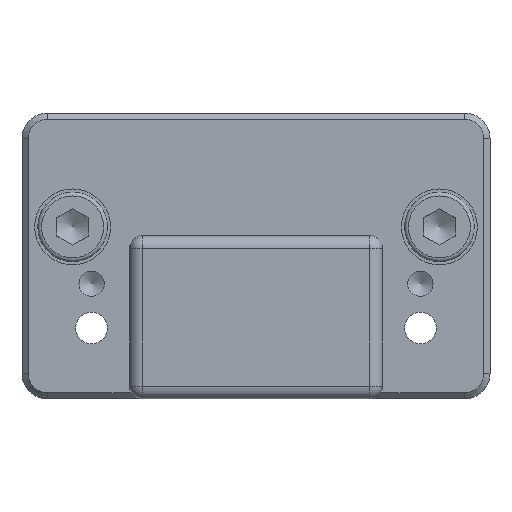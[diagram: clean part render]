
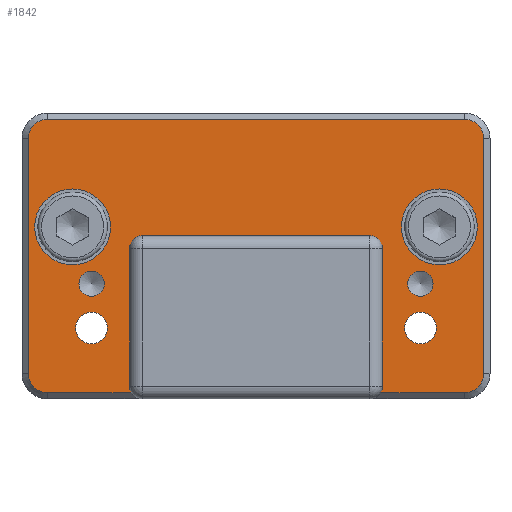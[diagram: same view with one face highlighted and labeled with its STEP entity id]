
A CAD part, front view. The second image highlights one B-rep face of the part: STEP entity #1842.
In plain terms, the highlighted planar face has unit normal (0, -1, 0).
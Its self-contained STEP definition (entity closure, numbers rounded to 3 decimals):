
#44=FACE_BOUND('',#332,.T.);
#45=FACE_BOUND('',#333,.T.);
#46=FACE_BOUND('',#334,.T.);
#47=FACE_BOUND('',#335,.T.);
#48=FACE_BOUND('',#336,.T.);
#49=FACE_BOUND('',#337,.T.);
#103=PLANE('',#2039);
#213=FACE_OUTER_BOUND('',#331,.T.);
#331=EDGE_LOOP('',(#1486,#1487,#1488,#1489,#1490,#1491,#1492,#1493,#1494,
#1495,#1496,#1497,#1498,#1499,#1500,#1501));
#332=EDGE_LOOP('',(#1502));
#333=EDGE_LOOP('',(#1503));
#334=EDGE_LOOP('',(#1504));
#335=EDGE_LOOP('',(#1505));
#336=EDGE_LOOP('',(#1506));
#337=EDGE_LOOP('',(#1507));
#413=LINE('',#2865,#554);
#416=LINE('',#2876,#557);
#421=LINE('',#2889,#562);
#425=LINE('',#2901,#566);
#427=LINE('',#2912,#568);
#488=LINE('',#3065,#629);
#489=LINE('',#3069,#630);
#490=LINE('',#3073,#631);
#554=VECTOR('',#2296,10.);
#557=VECTOR('',#2307,10.);
#562=VECTOR('',#2320,10.);
#566=VECTOR('',#2332,10.);
#568=VECTOR('',#2344,10.);
#629=VECTOR('',#2501,10.);
#630=VECTOR('',#2504,10.);
#631=VECTOR('',#2507,10.);
#691=CIRCLE('',#1978,1.5);
#693=CIRCLE('',#1982,1.5);
#695=CIRCLE('',#1986,1.5);
#697=CIRCLE('',#1990,1.5);
#703=CIRCLE('',#2008,1.);
#705=CIRCLE('',#2012,1.);
#712=CIRCLE('',#2040,1.);
#713=CIRCLE('',#2041,1.);
#714=CIRCLE('',#2042,1.);
#715=CIRCLE('',#2043,1.);
#716=CIRCLE('',#2044,3.);
#717=CIRCLE('',#2045,3.);
#718=CIRCLE('',#2046,1.25);
#719=CIRCLE('',#2047,1.25);
#801=VERTEX_POINT('',#2858);
#804=VERTEX_POINT('',#2863);
#806=VERTEX_POINT('',#2869);
#808=VERTEX_POINT('',#2874);
#810=VERTEX_POINT('',#2881);
#812=VERTEX_POINT('',#2887);
#814=VERTEX_POINT('',#2893);
#816=VERTEX_POINT('',#2899);
#818=VERTEX_POINT('',#2905);
#820=VERTEX_POINT('',#2910);
#841=VERTEX_POINT('',#2973);
#844=VERTEX_POINT('',#2982);
#863=VERTEX_POINT('',#3062);
#864=VERTEX_POINT('',#3064);
#865=VERTEX_POINT('',#3066);
#866=VERTEX_POINT('',#3068);
#867=VERTEX_POINT('',#3070);
#868=VERTEX_POINT('',#3072);
#869=VERTEX_POINT('',#3075);
#870=VERTEX_POINT('',#3077);
#871=VERTEX_POINT('',#3079);
#872=VERTEX_POINT('',#3081);
#984=EDGE_CURVE('',#804,#801,#413,.T.);
#987=EDGE_CURVE('',#806,#804,#691,.T.);
#989=EDGE_CURVE('',#808,#806,#416,.T.);
#993=EDGE_CURVE('',#810,#808,#693,.T.);
#996=EDGE_CURVE('',#812,#810,#421,.T.);
#999=EDGE_CURVE('',#814,#812,#695,.T.);
#1002=EDGE_CURVE('',#816,#814,#425,.T.);
#1005=EDGE_CURVE('',#818,#816,#697,.T.);
#1007=EDGE_CURVE('',#820,#818,#427,.T.);
#1038=EDGE_CURVE('',#841,#841,#703,.T.);
#1042=EDGE_CURVE('',#844,#844,#705,.T.);
#1082=EDGE_CURVE('',#863,#820,#712,.F.);
#1083=EDGE_CURVE('',#863,#864,#488,.T.);
#1084=EDGE_CURVE('',#865,#864,#713,.F.);
#1085=EDGE_CURVE('',#865,#866,#489,.T.);
#1086=EDGE_CURVE('',#867,#866,#714,.F.);
#1087=EDGE_CURVE('',#868,#867,#490,.T.);
#1088=EDGE_CURVE('',#801,#868,#715,.F.);
#1089=EDGE_CURVE('',#869,#869,#716,.T.);
#1090=EDGE_CURVE('',#870,#870,#717,.T.);
#1091=EDGE_CURVE('',#871,#871,#718,.T.);
#1092=EDGE_CURVE('',#872,#872,#719,.T.);
#1486=ORIENTED_EDGE('',*,*,#1007,.F.);
#1487=ORIENTED_EDGE('',*,*,#1082,.F.);
#1488=ORIENTED_EDGE('',*,*,#1083,.T.);
#1489=ORIENTED_EDGE('',*,*,#1084,.F.);
#1490=ORIENTED_EDGE('',*,*,#1085,.T.);
#1491=ORIENTED_EDGE('',*,*,#1086,.F.);
#1492=ORIENTED_EDGE('',*,*,#1087,.F.);
#1493=ORIENTED_EDGE('',*,*,#1088,.F.);
#1494=ORIENTED_EDGE('',*,*,#984,.F.);
#1495=ORIENTED_EDGE('',*,*,#987,.F.);
#1496=ORIENTED_EDGE('',*,*,#989,.F.);
#1497=ORIENTED_EDGE('',*,*,#993,.F.);
#1498=ORIENTED_EDGE('',*,*,#996,.F.);
#1499=ORIENTED_EDGE('',*,*,#999,.F.);
#1500=ORIENTED_EDGE('',*,*,#1002,.F.);
#1501=ORIENTED_EDGE('',*,*,#1005,.F.);
#1502=ORIENTED_EDGE('',*,*,#1038,.T.);
#1503=ORIENTED_EDGE('',*,*,#1042,.T.);
#1504=ORIENTED_EDGE('',*,*,#1089,.T.);
#1505=ORIENTED_EDGE('',*,*,#1090,.T.);
#1506=ORIENTED_EDGE('',*,*,#1091,.T.);
#1507=ORIENTED_EDGE('',*,*,#1092,.T.);
#1842=ADVANCED_FACE('',(#213,#44,#45,#46,#47,#48,#49),#103,.T.);
#1978=AXIS2_PLACEMENT_3D('',#2871,#2302,#2303);
#1982=AXIS2_PLACEMENT_3D('',#2883,#2314,#2315);
#1986=AXIS2_PLACEMENT_3D('',#2895,#2326,#2327);
#1990=AXIS2_PLACEMENT_3D('',#2907,#2338,#2339);
#2008=AXIS2_PLACEMENT_3D('',#2974,#2400,#2401);
#2012=AXIS2_PLACEMENT_3D('',#2983,#2410,#2411);
#2039=AXIS2_PLACEMENT_3D('',#3061,#2497,#2498);
#2040=AXIS2_PLACEMENT_3D('',#3063,#2499,#2500);
#2041=AXIS2_PLACEMENT_3D('',#3067,#2502,#2503);
#2042=AXIS2_PLACEMENT_3D('',#3071,#2505,#2506);
#2043=AXIS2_PLACEMENT_3D('',#3074,#2508,#2509);
#2044=AXIS2_PLACEMENT_3D('',#3076,#2510,#2511);
#2045=AXIS2_PLACEMENT_3D('',#3078,#2512,#2513);
#2046=AXIS2_PLACEMENT_3D('',#3080,#2514,#2515);
#2047=AXIS2_PLACEMENT_3D('',#3082,#2516,#2517);
#2296=DIRECTION('',(-1.,0.,0.));
#2302=DIRECTION('center_axis',(0.,1.,0.));
#2303=DIRECTION('ref_axis',(0.707,0.,-0.707));
#2307=DIRECTION('',(0.,0.,-1.));
#2314=DIRECTION('center_axis',(0.,1.,0.));
#2315=DIRECTION('ref_axis',(0.707,0.,0.707));
#2320=DIRECTION('',(1.,0.,0.));
#2326=DIRECTION('center_axis',(0.,1.,0.));
#2327=DIRECTION('ref_axis',(-0.707,0.,0.707));
#2332=DIRECTION('',(0.,0.,1.));
#2338=DIRECTION('center_axis',(0.,1.,0.));
#2339=DIRECTION('ref_axis',(-0.707,0.,-0.707));
#2344=DIRECTION('',(-1.,0.,0.));
#2400=DIRECTION('center_axis',(0.,1.,0.));
#2401=DIRECTION('ref_axis',(1.,0.,0.));
#2410=DIRECTION('center_axis',(0.,1.,0.));
#2411=DIRECTION('ref_axis',(1.,0.,0.));
#2497=DIRECTION('center_axis',(0.,-1.,0.));
#2498=DIRECTION('ref_axis',(1.,0.,0.));
#2499=DIRECTION('center_axis',(0.,1.,0.));
#2500=DIRECTION('ref_axis',(-0.707,0.,-0.707));
#2501=DIRECTION('',(0.,0.,1.));
#2502=DIRECTION('center_axis',(0.,1.,0.));
#2503=DIRECTION('ref_axis',(-0.707,0.,0.707));
#2504=DIRECTION('',(1.,0.,0.));
#2505=DIRECTION('center_axis',(0.,1.,0.));
#2506=DIRECTION('ref_axis',(0.707,0.,0.707));
#2507=DIRECTION('',(0.,0.,1.));
#2508=DIRECTION('center_axis',(0.,1.,0.));
#2509=DIRECTION('ref_axis',(0.707,0.,-0.707));
#2510=DIRECTION('center_axis',(0.,1.,0.));
#2511=DIRECTION('ref_axis',(1.,0.,0.));
#2512=DIRECTION('center_axis',(0.,1.,0.));
#2513=DIRECTION('ref_axis',(1.,0.,0.));
#2514=DIRECTION('center_axis',(0.,1.,0.));
#2515=DIRECTION('ref_axis',(1.,0.,0.));
#2516=DIRECTION('center_axis',(0.,1.,0.));
#2517=DIRECTION('ref_axis',(1.,0.,0.));
#2858=CARTESIAN_POINT('',(9.866,-4.4,0.5));
#2863=CARTESIAN_POINT('',(16.5,-4.4,0.5));
#2865=CARTESIAN_POINT('',(-9.25,-4.4,0.5));
#2869=CARTESIAN_POINT('',(18.,-4.4,2.));
#2871=CARTESIAN_POINT('Origin',(16.5,-4.4,2.));
#2874=CARTESIAN_POINT('',(18.,-4.4,20.6));
#2876=CARTESIAN_POINT('',(18.,-4.4,0.));
#2881=CARTESIAN_POINT('',(16.5,-4.4,22.1));
#2883=CARTESIAN_POINT('Origin',(16.5,-4.4,20.6));
#2887=CARTESIAN_POINT('',(-16.5,-4.4,22.1));
#2889=CARTESIAN_POINT('',(-9.25,-4.4,22.1));
#2893=CARTESIAN_POINT('',(-18.,-4.4,20.6));
#2895=CARTESIAN_POINT('Origin',(-16.5,-4.4,20.6));
#2899=CARTESIAN_POINT('',(-18.,-4.4,2.));
#2901=CARTESIAN_POINT('',(-18.,-4.4,0.));
#2905=CARTESIAN_POINT('',(-16.5,-4.4,0.5));
#2907=CARTESIAN_POINT('Origin',(-16.5,-4.4,2.));
#2910=CARTESIAN_POINT('',(-9.866,-4.4,0.5));
#2912=CARTESIAN_POINT('',(-9.25,-4.4,0.5));
#2973=CARTESIAN_POINT('',(12.,-4.4,9.1));
#2974=CARTESIAN_POINT('Origin',(13.,-4.4,9.1));
#2982=CARTESIAN_POINT('',(-14.,-4.4,9.1));
#2983=CARTESIAN_POINT('Origin',(-13.,-4.4,9.1));
#3061=CARTESIAN_POINT('Origin',(-18.5,-4.4,0.));
#3062=CARTESIAN_POINT('',(-10.,-4.4,1.));
#3063=CARTESIAN_POINT('Origin',(-9.,-4.4,1.));
#3064=CARTESIAN_POINT('',(-10.,-4.4,11.9));
#3065=CARTESIAN_POINT('',(-10.,-4.4,0.));
#3066=CARTESIAN_POINT('',(-9.,-4.4,12.9));
#3067=CARTESIAN_POINT('Origin',(-9.,-4.4,11.9));
#3068=CARTESIAN_POINT('',(9.,-4.4,12.9));
#3069=CARTESIAN_POINT('',(-10.,-4.4,12.9));
#3070=CARTESIAN_POINT('',(10.,-4.4,11.9));
#3071=CARTESIAN_POINT('Origin',(9.,-4.4,11.9));
#3072=CARTESIAN_POINT('',(10.,-4.4,1.));
#3073=CARTESIAN_POINT('',(10.,-4.4,0.));
#3074=CARTESIAN_POINT('Origin',(9.,-4.4,1.));
#3075=CARTESIAN_POINT('',(11.5,-4.4,13.6));
#3076=CARTESIAN_POINT('Origin',(14.5,-4.4,13.6));
#3077=CARTESIAN_POINT('',(-17.5,-4.4,13.6));
#3078=CARTESIAN_POINT('Origin',(-14.5,-4.4,13.6));
#3079=CARTESIAN_POINT('',(-14.25,-4.4,5.6));
#3080=CARTESIAN_POINT('Origin',(-13.,-4.4,5.6));
#3081=CARTESIAN_POINT('',(11.75,-4.4,5.6));
#3082=CARTESIAN_POINT('Origin',(13.,-4.4,5.6));
